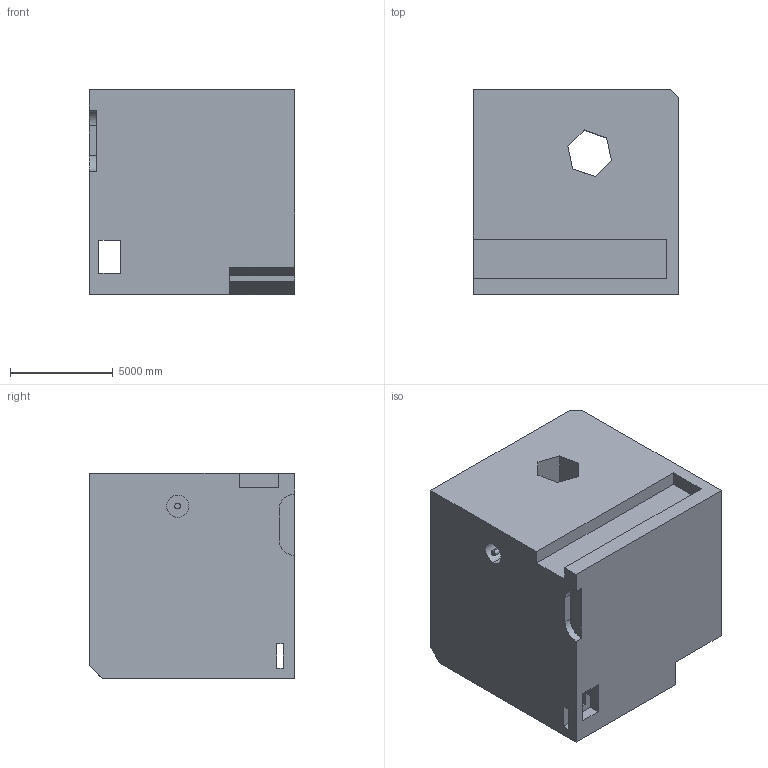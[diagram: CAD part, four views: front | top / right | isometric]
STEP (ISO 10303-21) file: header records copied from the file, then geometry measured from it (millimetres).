
FILE_DESCRIPTION (( 'STEP AP203' ), '1' );
FILE_NAME ('196.STEP', '2022-09-06T13:41:11', ( 'user' ), ( '' ), 'SwSTEP 2.0', 'SolidWorks 2021', '' );
FILE_SCHEMA (( 'CONFIG_CONTROL_DESIGN' ));
Length unit declared in the file: centimetre
Products named in the file (1): 196
Bounding box: 10000 x 10000 x 10000 mm (x, y, z)
Volume: 916766375074.3 mm3; surface area: 786018850.1 mm2
Topology: 1 solids, 1 shells, 47 faces, 135 edges, 90 vertices
Faces by surface type: plane 39, cylinder 8
Entity records: 1622 total; most frequent: CARTESIAN_POINT 291, ORIENTED_EDGE 270, DIRECTION 241, EDGE_CURVE 135, VECTOR 113, LINE 113, VERTEX_POINT 90, AXIS2_PLACEMENT_3D 64
